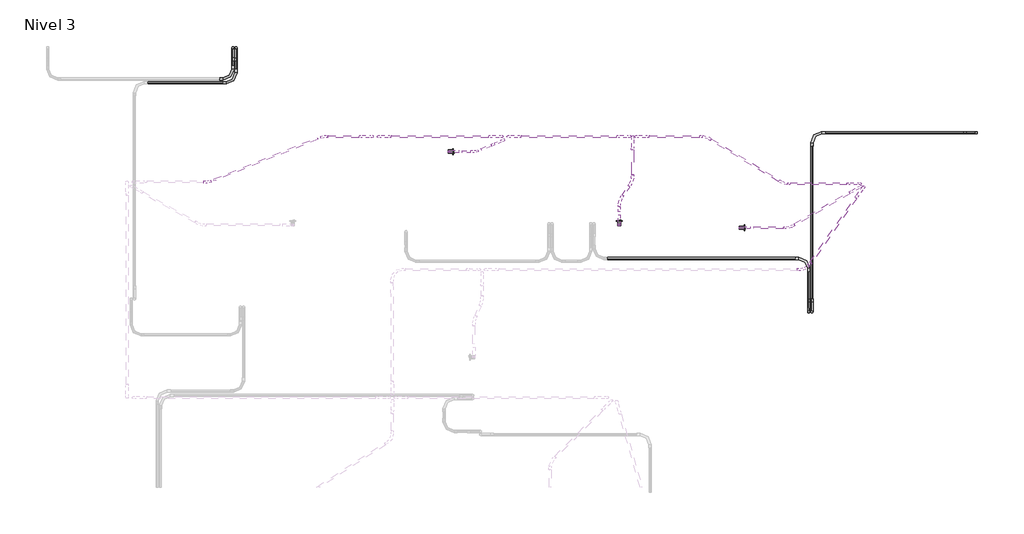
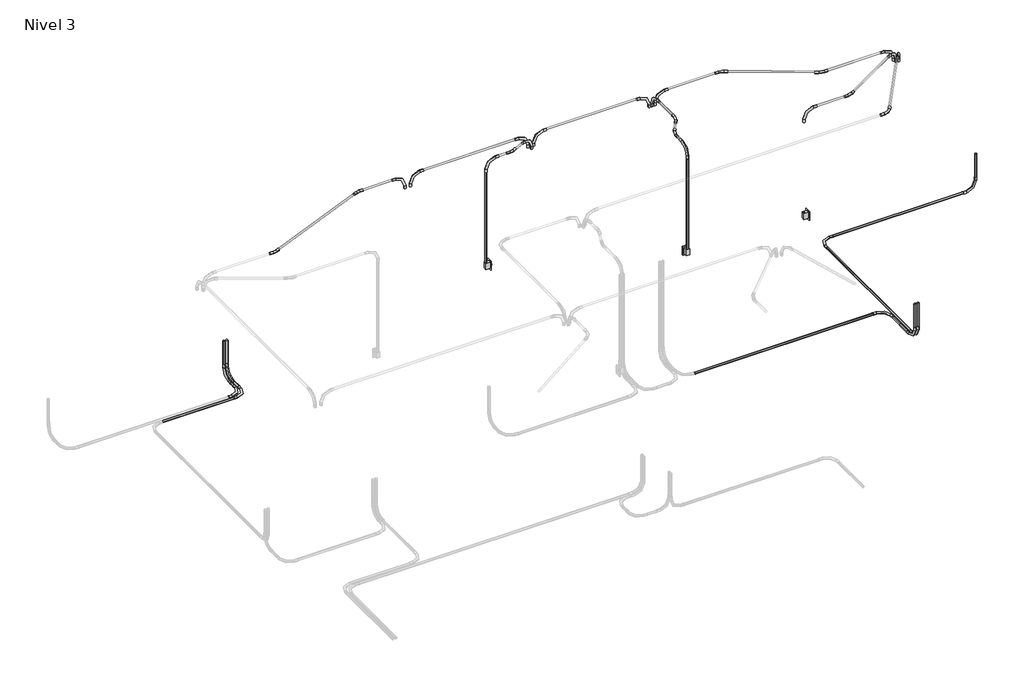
# One storey, part 9 of 9: 32 cable carrier fittings, 29 cable carrier segments, 3 switching devices.
"""IFC4 building model written with IfcOpenShell, lengths in millimetres."""

from ifc_helpers import new_model, si_unit, point, frame, frame_2d, origin, place, context, project, spatial, circle_curve, trimmed, segment, composite_curve, outline, extrude, transform, mapped, element, save
from components import m_codo_de_tubo_extremo_liso_pvc_9da73e12, m_codo_de_tubo_extremo_liso_pvc_102f0f41, m_codo_de_tubo_extremo_liso_pvc_83c0c0e9, m_codo_de_tubo_extremo_liso_pvc_1ce4db88, m_codo_de_tubo_extremo_liso_pvc_e924b1dc, m_codo_de_tubo_extremo_liso_pvc_b7793a26, m_codo_de_tubo_extremo_liso_pvc_59586aee, m_codo_de_tubo_extremo_liso_pvc_e6ab1ad8, switching_device_22fed34b

model = new_model("IFC4")

# Units and contexts
model_context = context("Model", 3, world=origin())
ifc_project = project(units=[si_unit("LENGTHUNIT", "METRE", prefix="MILLI")], contexts=[model_context])

# Site, building, storey
site = spatial("IfcSite", under=ifc_project)
building = spatial("IfcBuilding", under=site)
storey = spatial("IfcBuildingStorey", under=building, Name="Nivel 3", Elevation=5450.0)

# Cable carrier fittings
placement = place(None, origin())
m_codo_de_tubo_extremo_liso_pvc_shape = m_codo_de_tubo_extremo_liso_pvc_9da73e12(model_context)
element("IfcCableCarrierFitting", 1, ObjectType="M_Codo de tubo - Extremo liso - PVC : CODO POTENCIA", at=placement, inside=storey, context=model_context, shape_type="MappedRepresentation", body=[
    mapped(m_codo_de_tubo_extremo_liso_pvc_shape, transform((571.491666, 17544.6371118, 5380.0), x_axis=(0.0, 0.0, -1.0), y_axis=(0.0, -1.0, 0.0), z_axis=(-1.0, 0.0, 0.0))),
])
element("IfcCableCarrierFitting", 2, ObjectType="M_Codo de tubo - Extremo liso - PVC : CODO POTENCIA", at=placement, inside=storey, context=model_context, shape_type="MappedRepresentation", body=[
    mapped(m_codo_de_tubo_extremo_liso_pvc_shape, transform((607.5553057, 17544.6371118, 5380.0), x_axis=(0.0, 0.0, -1.0), y_axis=(0.0, -1.0, 0.0), z_axis=(-1.0, 0.0, 0.0))),
])
element("IfcCableCarrierFitting", 3, ObjectType="M_Codo de tubo - Extremo liso - PVC : CODO POTENCIA", at=placement, inside=storey, context=model_context, shape_type="MappedRepresentation", body=[
    mapped(m_codo_de_tubo_extremo_liso_pvc_shape, transform((9120.3628882, 16566.5645592, 5380.0), x_axis=(0.0, 0.0, -1.0), y_axis=(-1.0, 0.0, 0.0), z_axis=(0.0, 1.0, 0.0))),
])
element("IfcCableCarrierFitting", 4, ObjectType="M_Codo de tubo - Extremo liso - PVC : CODO POTENCIA", at=placement, inside=storey, context=model_context, shape_type="MappedRepresentation", body=[
    mapped(m_codo_de_tubo_extremo_liso_pvc_shape, transform((7193.2733803, 14505.3628882, 5380.0), x_axis=(0.0, 0.0, -1.0), y_axis=(0.0, 1.0, 0.0), z_axis=(1.0, 0.0, 0.0))),
])
element("IfcCableCarrierFitting", 5, ObjectType="M_Codo de tubo - Extremo liso - PVC : CODO POTENCIA", at=placement, inside=storey, context=model_context, shape_type="MappedRepresentation", body=[
    mapped(m_codo_de_tubo_extremo_liso_pvc_shape, transform((7229.33702, 16566.5645592, 5380.0), x_axis=(-1.0, 0.0, 0.0), y_axis=(0.0, -1.0, 0.0), z_axis=(0.0, 0.0, 1.0))),
])
element("IfcCableCarrierFitting", 6, ObjectType="M_Codo de tubo - Extremo liso - PVC : CODO POTENCIA", at=placement, inside=storey, context=model_context, shape_type="MappedRepresentation", body=[
    mapped(m_codo_de_tubo_extremo_liso_pvc_shape, transform((7229.33702, 14505.3628882, 5380.0), x_axis=(0.0, 0.0, -1.0), y_axis=(0.0, 1.0, 0.0), z_axis=(1.0, 0.0, 0.0))),
])
element("IfcCableCarrierFitting", 7, ObjectType="M_Codo de tubo - Extremo liso - PVC : CODO POTENCIA", at=placement, inside=storey, context=model_context, shape_type="MappedRepresentation", body=[
    mapped(m_codo_de_tubo_extremo_liso_pvc_shape, transform((7193.2733803, 15120.3628882, 5380.0), x_axis=(0.0, 1.0, 0.0), y_axis=(-1.0, 0.0, 0.0), z_axis=(0.0, 0.0, 1.0))),
])
element("IfcCableCarrierFitting", 8, ObjectType="M_Codo de tubo - Extremo liso - PVC : CODO POTENCIA", at=placement, inside=storey, context=model_context, shape_type="MappedRepresentation", body=[
    mapped(m_codo_de_tubo_extremo_liso_pvc_shape, transform((607.5553057, 17141.7513363, 5380.0), x_axis=(1.0, 0.0, 0.0), y_axis=(0.0, 1.0, 0.0), z_axis=(0.0, 0.0, 1.0))),
])
element("IfcCableCarrierFitting", 9, ObjectType="M_Codo de tubo - Extremo liso - PVC : CODO POTENCIA", at=placement, inside=storey, context=model_context, shape_type="MappedRepresentation", body=[
    mapped(m_codo_de_tubo_extremo_liso_pvc_shape, transform((571.491666, 17184.6371118, 5380.0), x_axis=(1.0, 0.0, 0.0), y_axis=(0.0, 1.0, 0.0), z_axis=(0.0, 0.0, 1.0))),
])
element("IfcCableCarrierFitting", 10, ObjectType="M_Codo de tubo - Extremo liso - PVC : CODO ILUMINACION", at=placement, inside=storey, context=model_context, shape_type="MappedRepresentation", body=[
    mapped(m_codo_de_tubo_extremo_liso_pvc_shape, transform((2241.7948591, 16522.4684793, 8000.0), x_axis=(-1.0, 0.0, 0.0), y_axis=(0.0, 0.0, -1.0), z_axis=(0.0, -1.0, 0.0))),
])
element("IfcCableCarrierFitting", 11, ObjectType="M_Codo de tubo - Extremo liso - PVC : CODO ILUMINACION", at=placement, inside=storey, context=model_context, shape_type="MappedRepresentation", body=[
    mapped(m_codo_de_tubo_extremo_liso_pvc_shape, transform((3734.0151305, 16522.4684793, 8000.0), x_axis=(-1.0, 0.0, 0.0), y_axis=(0.0, 0.0, -1.0), z_axis=(0.0, -1.0, 0.0))),
])
element("IfcCableCarrierFitting", 12, ObjectType="M_Codo de tubo - Extremo liso - PVC : CODO ILUMINACION", at=placement, inside=storey, context=model_context, shape_type="MappedRepresentation", body=[
    mapped(m_codo_de_tubo_extremo_liso_pvc_shape, transform((5204.7397254, 16522.4684793, 8000.0), x_axis=(-1.0, 0.0, 0.0), y_axis=(0.0, 0.0, -1.0), z_axis=(0.0, -1.0, 0.0))),
])
element("IfcCableCarrierFitting", 13, ObjectType="M_Codo de tubo - Extremo liso - PVC : CODO ILUMINACION", at=placement, inside=storey, context=model_context, shape_type="MappedRepresentation", body=[
    mapped(m_codo_de_tubo_extremo_liso_pvc_shape, transform((3056.7668084, 16349.9044993, 8000.0), x_axis=(0.0, 0.0, 1.0), y_axis=(1.0, 0.0, 0.0), z_axis=(0.0, 1.0, 0.0))),
])
element("IfcCableCarrierFitting", 14, ObjectType="M_Codo de tubo - Extremo liso - PVC : CODO ILUMINACION", at=placement, inside=storey, context=model_context, shape_type="MappedRepresentation", body=[
    mapped(m_codo_de_tubo_extremo_liso_pvc_shape, transform((5014.6923036, 15506.8611243, 8000.0), x_axis=(0.0, 0.0, 1.0), y_axis=(0.0, 1.0, 0.0), z_axis=(-1.0, 0.0, 0.0))),
])
element("IfcCableCarrierFitting", 15, ObjectType="M_Codo de tubo - Extremo liso - PVC : CODO ILUMINACION", at=placement, inside=storey, context=model_context, shape_type="MappedRepresentation", body=[
    mapped(m_codo_de_tubo_extremo_liso_pvc_shape, transform((6406.8611243, 15473.3236049, 8000.0), x_axis=(0.0, 0.0, 1.0), y_axis=(1.0, 0.0, 0.0), z_axis=(0.0, 1.0, 0.0))),
])
m_codo_de_tubo_extremo_liso_pvc_2_shape = m_codo_de_tubo_extremo_liso_pvc_102f0f41(model_context)
element("IfcCableCarrierFitting", 16, ObjectType="M_Codo de tubo - Extremo liso - PVC : CODO ILUMINACION", at=placement, inside=storey, context=model_context, shape_type="MappedRepresentation", body=[
    mapped(m_codo_de_tubo_extremo_liso_pvc_2_shape, transform((2173.7645981, 16522.4684793, 8000.0), x_axis=(1.0, 0.0, 0.0), y_axis=(0.0, 0.0, 1.0), z_axis=(0.0, -1.0, 0.0))),
])
element("IfcCableCarrierFitting", 17, ObjectType="M_Codo de tubo - Extremo liso - PVC : CODO ILUMINACION", at=placement, inside=storey, context=model_context, shape_type="MappedRepresentation", body=[
    mapped(m_codo_de_tubo_extremo_liso_pvc_2_shape, transform((3665.9848695, 16522.4684793, 8000.0), x_axis=(1.0, 0.0, 0.0), y_axis=(0.0, 0.0, 1.0), z_axis=(0.0, -1.0, 0.0))),
])
element("IfcCableCarrierFitting", 18, ObjectType="M_Codo de tubo - Extremo liso - PVC : CODO ILUMINACION", at=placement, inside=storey, context=model_context, shape_type="MappedRepresentation", body=[
    mapped(m_codo_de_tubo_extremo_liso_pvc_2_shape, transform((5136.7094645, 16522.4684793, 8000.0), x_axis=(1.0, 0.0, 0.0), y_axis=(0.0, 0.0, 1.0), z_axis=(0.0, -1.0, 0.0))),
])
element("IfcCableCarrierFitting", 19, ObjectType="M_Codo de tubo - Extremo liso - PVC : CODO ILUMINACION", at=placement, inside=storey, context=model_context, shape_type="MappedRepresentation", body=[
    mapped(m_codo_de_tubo_extremo_liso_pvc_2_shape, transform((7823.8636227, 15941.494093, 8000.0), x_axis=(0.5735764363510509, 0.8191520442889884, 0.0), y_axis=(0.0, 0.0, 1.0), z_axis=(0.8191520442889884, -0.5735764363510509, 0.0))),
])
element("IfcCableCarrierFitting", 20, ObjectType="M_Codo de tubo - Extremo liso - PVC : CODO ILUMINACION", at=placement, inside=storey, context=model_context, shape_type="MappedRepresentation", body=[
    mapped(m_codo_de_tubo_extremo_liso_pvc_2_shape, transform((7785.0139117, 15979.0288692, 8000.0), x_axis=(1.0, 0.0, 0.0), y_axis=(0.0, 0.0, 1.0), z_axis=(0.0, -1.0, 0.0))),
])
element("IfcCableCarrierFitting", 21, ObjectType="M_Codo de tubo - Extremo liso - PVC : CODO ILUMINACION", at=placement, inside=storey, context=model_context, shape_type="MappedRepresentation", body=[
    mapped(m_codo_de_tubo_extremo_liso_pvc_2_shape, transform((3684.8643971, 16483.326512, 8000.0), x_axis=(0.9205048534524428, 0.3907311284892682, 0.0), y_axis=(0.0, 0.0, 1.0000000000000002), z_axis=(0.3907311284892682, -0.9205048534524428, 0.0))),
])
element("IfcCableCarrierFitting", 22, ObjectType="M_Codo de tubo - Extremo liso - PVC : CODO ILUMINACION", at=placement, inside=storey, context=model_context, shape_type="MappedRepresentation", body=[
    mapped(m_codo_de_tubo_extremo_liso_pvc_2_shape, transform((5168.2792063, 16521.8599625, 8000.0), x_axis=(0.0, 1.0, 0.0), y_axis=(0.0, 0.0, 1.0), z_axis=(1.0, 0.0, 0.0))),
])
element("IfcCableCarrierFitting", 23, ObjectType="M_Codo de tubo - Extremo liso - PVC : CODO ILUMINACION", at=placement, inside=storey, context=model_context, shape_type="MappedRepresentation", body=[
    mapped(m_codo_de_tubo_extremo_liso_pvc_2_shape, transform((7797.1522648, 15952.0796933, 8000.0), x_axis=(0.8660254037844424, 0.4999999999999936, 0.0), y_axis=(0.0, 0.0, 1.0), z_axis=(0.4999999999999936, -0.8660254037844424, 0.0))),
])
m_codo_de_tubo_extremo_liso_pvc_3_shape = m_codo_de_tubo_extremo_liso_pvc_83c0c0e9(model_context)
element("IfcCableCarrierFitting", 24, ObjectType="M_Codo de tubo - Extremo liso - PVC : CODO ILUMINACION", at=placement, inside=storey, context=model_context, shape_type="MappedRepresentation", body=[
    mapped(m_codo_de_tubo_extremo_liso_pvc_3_shape, transform((297.9663114, 16001.2965089, 8000.0), x_axis=(1.0, 0.0, 0.0), y_axis=(0.0, 1.0, 0.0), z_axis=(0.0, 0.0, 1.0))),
])
element("IfcCableCarrierFitting", 25, ObjectType="M_Codo de tubo - Extremo liso - PVC : CODO ILUMINACION", at=placement, inside=storey, context=model_context, shape_type="MappedRepresentation", body=[
    mapped(m_codo_de_tubo_extremo_liso_pvc_3_shape, transform((1601.3645981, 16522.4684793, 8000.0), x_axis=(-1.0, 0.0, 0.0), y_axis=(0.0, -1.0, 0.0), z_axis=(0.0, 0.0, 1.0))),
])
m_codo_de_tubo_extremo_liso_pvc_4_shape = m_codo_de_tubo_extremo_liso_pvc_1ce4db88(model_context)
element("IfcCableCarrierFitting", 26, ObjectType="M_Codo de tubo - Extremo liso - PVC : CODO ILUMINACION", at=placement, inside=storey, context=model_context, shape_type="MappedRepresentation", body=[
    mapped(m_codo_de_tubo_extremo_liso_pvc_4_shape, transform((6008.1785187, 16522.4684793, 8000.0), x_axis=(-0.8571673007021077, 0.5150380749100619, 0.0), y_axis=(-0.5150380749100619, -0.8571673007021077, 0.0), z_axis=(0.0, 0.0, 1.0))),
])
element("IfcCableCarrierFitting", 27, ObjectType="M_Codo de tubo - Extremo liso - PVC : CODO ILUMINACION", at=placement, inside=storey, context=model_context, shape_type="MappedRepresentation", body=[
    mapped(m_codo_de_tubo_extremo_liso_pvc_4_shape, transform((6912.6139117, 15979.0288692, 8000.0), x_axis=(0.8571673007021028, -0.51503807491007, 0.0), y_axis=(0.51503807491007, 0.8571673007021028, 0.0), z_axis=(0.0, 0.0, 1.0))),
])
m_codo_de_tubo_extremo_liso_pvc_5_shape = m_codo_de_tubo_extremo_liso_pvc_e924b1dc(model_context)
element("IfcCableCarrierFitting", 28, ObjectType="M_Codo de tubo - Extremo liso - PVC : CODO ILUMINACION", at=placement, inside=storey, context=model_context, shape_type="MappedRepresentation", body=[
    mapped(m_codo_de_tubo_extremo_liso_pvc_5_shape, transform((7159.7702922, 14993.0705266, 8000.0), x_axis=(1.0, 0.0, 0.0), y_axis=(0.0, 1.0, 0.0), z_axis=(0.0, 0.0, 1.0))),
])
m_codo_de_tubo_extremo_liso_pvc_6_shape = m_codo_de_tubo_extremo_liso_pvc_b7793a26(model_context)
element("IfcCableCarrierFitting", 29, ObjectType="M_Codo de tubo - Extremo liso - PVC : CODO ILUMINACION", at=placement, inside=storey, context=model_context, shape_type="MappedRepresentation", body=[
    mapped(m_codo_de_tubo_extremo_liso_pvc_6_shape, transform((3370.5418327, 16349.9044993, 8000.0), x_axis=(1.0, 0.0, 0.0), y_axis=(0.0, 1.0, 0.0), z_axis=(0.0, 0.0, 1.0))),
])
m_codo_de_tubo_extremo_liso_pvc_7_shape = m_codo_de_tubo_extremo_liso_pvc_59586aee(model_context)
element("IfcCableCarrierFitting", 30, ObjectType="M_Codo de tubo - Extremo liso - PVC : CODO ILUMINACION", at=placement, inside=storey, context=model_context, shape_type="MappedRepresentation", body=[
    mapped(m_codo_de_tubo_extremo_liso_pvc_7_shape, transform((5168.2792063, 16009.4599625, 8000.0), x_axis=(0.5679095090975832, 0.823090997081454, 0.0), y_axis=(-0.823090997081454, 0.5679095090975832, 0.0), z_axis=(0.0, 0.0, 1.0))),
])
element("IfcCableCarrierFitting", 31, ObjectType="M_Codo de tubo - Extremo liso - PVC : CODO ILUMINACION", at=placement, inside=storey, context=model_context, shape_type="MappedRepresentation", body=[
    mapped(m_codo_de_tubo_extremo_liso_pvc_7_shape, transform((5014.6923036, 15786.8611243, 8000.0), x_axis=(-0.5679095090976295, -0.8230909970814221, 0.0), y_axis=(0.8230909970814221, -0.5679095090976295, 0.0), z_axis=(0.0, 0.0, 1.0))),
])
m_codo_de_tubo_extremo_liso_pvc_8_shape = m_codo_de_tubo_extremo_liso_pvc_e6ab1ad8(model_context)
element("IfcCableCarrierFitting", 32, ObjectType="M_Codo de tubo - Extremo liso - PVC : CODO ILUMINACION", at=placement, inside=storey, context=model_context, shape_type="MappedRepresentation", body=[
    mapped(m_codo_de_tubo_extremo_liso_pvc_8_shape, transform((6967.9223952, 15473.3236049, 8000.0), x_axis=(1.0, 0.0, 0.0), y_axis=(0.0, 1.0, 0.0), z_axis=(0.0, 0.0, 1.0))),
])

# Cable carrier segments
element("IfcCableCarrierSegment", 33, ObjectType="PVC-SEL, POTENCIA", at=placement, inside=storey, context=model_context, shape_type="SweptSolid", body=[
    extrude(outline(composite_curve([segment(trimmed(circle_curve(frame_2d((5380.0, 571.491666)), 11.71), [point((5380.0, 559.781666))], [point((5368.29, 571.491666))], False, "CARTESIAN"), True, "CONTINUOUS"), segment(trimmed(circle_curve(frame_2d((5380.0, 571.491666)), 11.71), [point((5368.29, 571.491666))], [point((5380.0, 583.201666))], False, "CARTESIAN"), True, "CONTINUOUS"), segment(trimmed(circle_curve(frame_2d((5380.0, 571.491666)), 11.71), [point((5380.0, 583.201666))], [point((5391.71, 571.491666))], False, "CARTESIAN"), True, "CONTINUOUS"), segment(trimmed(circle_curve(frame_2d((5380.0, 571.491666)), 11.71), [point((5391.71, 571.491666))], [point((5380.0, 559.781666))], False, "CARTESIAN"), True, "CONTINUOUS")], self_intersect=False)), frame((0.0, 17337.0371118, 0.0), z_axis=(0.0, 1.0, 0.0), x_axis=(0.0, 0.0, 1.0)), (0.0, 0.0, 1.0), 55.2),
])
element("IfcCableCarrierSegment", 34, ObjectType="PVC-SEL, POTENCIA", at=placement, inside=storey, context=model_context, shape_type="SweptSolid", body=[
    extrude(outline(composite_curve([segment(trimmed(circle_curve(frame_2d((571.491666, 17544.6371118)), 11.71), [point((583.201666, 17544.6371118))], [point((571.491666, 17532.9271118))], False, "CARTESIAN"), True, "CONTINUOUS"), segment(trimmed(circle_curve(frame_2d((571.491666, 17544.6371118)), 11.71), [point((571.491666, 17532.9271118))], [point((559.781666, 17544.6371118))], False, "CARTESIAN"), True, "CONTINUOUS"), segment(trimmed(circle_curve(frame_2d((571.491666, 17544.6371118)), 11.71), [point((559.781666, 17544.6371118))], [point((571.491666, 17556.3471118))], False, "CARTESIAN"), True, "CONTINUOUS"), segment(trimmed(circle_curve(frame_2d((571.491666, 17544.6371118)), 11.71), [point((571.491666, 17556.3471118))], [point((583.201666, 17544.6371118))], False, "CARTESIAN"), True, "CONTINUOUS")], self_intersect=False)), frame((0.0, 0.0, 5532.4), z_axis=(0.0, 0.0, 1.0), x_axis=(1.0, 0.0, 0.0)), (0.0, 0.0, 1.0), 297.3020537),
])
element("IfcCableCarrierSegment", 35, ObjectType="PVC-SEL, POTENCIA", at=placement, inside=storey, context=model_context, shape_type="SweptSolid", body=[
    extrude(outline(composite_curve([segment(trimmed(circle_curve(frame_2d((5380.0, 607.5553057)), 11.71), [point((5380.0, 595.8453057))], [point((5368.29, 607.5553057))], False, "CARTESIAN"), True, "CONTINUOUS"), segment(trimmed(circle_curve(frame_2d((5380.0, 607.5553057)), 11.71), [point((5368.29, 607.5553057))], [point((5380.0, 619.2653057))], False, "CARTESIAN"), True, "CONTINUOUS"), segment(trimmed(circle_curve(frame_2d((5380.0, 607.5553057)), 11.71), [point((5380.0, 619.2653057))], [point((5391.71, 607.5553057))], False, "CARTESIAN"), True, "CONTINUOUS"), segment(trimmed(circle_curve(frame_2d((5380.0, 607.5553057)), 11.71), [point((5391.71, 607.5553057))], [point((5380.0, 595.8453057))], False, "CARTESIAN"), True, "CONTINUOUS")], self_intersect=False)), frame((0.0, 17294.1513363, 0.0), z_axis=(0.0, 1.0, 0.0), x_axis=(0.0, 0.0, 1.0)), (0.0, 0.0, 1.0), 98.0857755),
])
element("IfcCableCarrierSegment", 36, ObjectType="PVC-SEL, POTENCIA", at=placement, inside=storey, context=model_context, shape_type="SweptSolid", body=[
    extrude(outline(composite_curve([segment(trimmed(circle_curve(frame_2d((607.5553057, 17544.6371118)), 11.71), [point((619.2653057, 17544.6371118))], [point((607.5553057, 17532.9271118))], False, "CARTESIAN"), True, "CONTINUOUS"), segment(trimmed(circle_curve(frame_2d((607.5553057, 17544.6371118)), 11.71), [point((607.5553057, 17532.9271118))], [point((595.8453057, 17544.6371118))], False, "CARTESIAN"), True, "CONTINUOUS"), segment(trimmed(circle_curve(frame_2d((607.5553057, 17544.6371118)), 11.71), [point((595.8453057, 17544.6371118))], [point((607.5553057, 17556.3471118))], False, "CARTESIAN"), True, "CONTINUOUS"), segment(trimmed(circle_curve(frame_2d((607.5553057, 17544.6371118)), 11.71), [point((607.5553057, 17556.3471118))], [point((619.2653057, 17544.6371118))], False, "CARTESIAN"), True, "CONTINUOUS")], self_intersect=False)), frame((0.0, 0.0, 5532.4), z_axis=(0.0, 0.0, 1.0), x_axis=(1.0, 0.0, 0.0)), (0.0, 0.0, 1.0), 297.3020537),
])
element("IfcCableCarrierSegment", 37, ObjectType="PVC-SEL, POTENCIA", at=placement, inside=storey, context=model_context, shape_type="SweptSolid", body=[
    extrude(outline(composite_curve([segment(trimmed(circle_curve(frame_2d((16566.5645592, 5380.0)), 11.71), [point((16578.2745592, 5380.0))], [point((16566.5645592, 5368.29))], False, "CARTESIAN"), True, "CONTINUOUS"), segment(trimmed(circle_curve(frame_2d((16566.5645592, 5380.0)), 11.71), [point((16566.5645592, 5368.29))], [point((16554.8545592, 5380.0))], False, "CARTESIAN"), True, "CONTINUOUS"), segment(trimmed(circle_curve(frame_2d((16566.5645592, 5380.0)), 11.71), [point((16554.8545592, 5380.0))], [point((16566.5645592, 5391.71))], False, "CARTESIAN"), True, "CONTINUOUS"), segment(trimmed(circle_curve(frame_2d((16566.5645592, 5380.0)), 11.71), [point((16566.5645592, 5391.71))], [point((16578.2745592, 5380.0))], False, "CARTESIAN"), True, "CONTINUOUS")], self_intersect=False)), frame((7381.73702, 0.0, 0.0), z_axis=(1.0, 0.0, 0.0), x_axis=(0.0, 1.0, 0.0)), (0.0, 0.0, 1.0), 1586.2258683),
])
element("IfcCableCarrierSegment", 38, ObjectType="PVC-SEL, POTENCIA", at=placement, inside=storey, context=model_context, shape_type="SweptSolid", body=[
    extrude(outline(composite_curve([segment(trimmed(circle_curve(frame_2d((9120.3628882, 16566.5645592)), 11.71), [point((9132.0728882, 16566.5645592))], [point((9120.3628882, 16554.8545592))], False, "CARTESIAN"), True, "CONTINUOUS"), segment(trimmed(circle_curve(frame_2d((9120.3628882, 16566.5645592)), 11.71), [point((9120.3628882, 16554.8545592))], [point((9108.6528882, 16566.5645592))], False, "CARTESIAN"), True, "CONTINUOUS"), segment(trimmed(circle_curve(frame_2d((9120.3628882, 16566.5645592)), 11.71), [point((9108.6528882, 16566.5645592))], [point((9120.3628882, 16578.2745592))], False, "CARTESIAN"), True, "CONTINUOUS"), segment(trimmed(circle_curve(frame_2d((9120.3628882, 16566.5645592)), 11.71), [point((9120.3628882, 16578.2745592))], [point((9132.0728882, 16566.5645592))], False, "CARTESIAN"), True, "CONTINUOUS")], self_intersect=False)), frame((0.0, 0.0, 5532.4), z_axis=(0.0, 0.0, 1.0), x_axis=(1.0, 0.0, 0.0)), (0.0, 0.0, 1.0), 297.3020537),
])
element("IfcCableCarrierSegment", 39, ObjectType="PVC-SEL, POTENCIA", at=placement, inside=storey, context=model_context, shape_type="SweptSolid", body=[
    extrude(outline(composite_curve([segment(trimmed(circle_curve(frame_2d((5380.0, 7193.2733803)), 11.71), [point((5380.0, 7204.9833803))], [point((5391.71, 7193.2733803))], False, "CARTESIAN"), True, "CONTINUOUS"), segment(trimmed(circle_curve(frame_2d((5380.0, 7193.2733803)), 11.71), [point((5391.71, 7193.2733803))], [point((5380.0, 7181.5633803))], False, "CARTESIAN"), True, "CONTINUOUS"), segment(trimmed(circle_curve(frame_2d((5380.0, 7193.2733803)), 11.71), [point((5380.0, 7181.5633803))], [point((5368.29, 7193.2733803))], False, "CARTESIAN"), True, "CONTINUOUS"), segment(trimmed(circle_curve(frame_2d((5380.0, 7193.2733803)), 11.71), [point((5368.29, 7193.2733803))], [point((5380.0, 7204.9833803))], False, "CARTESIAN"), True, "CONTINUOUS")], self_intersect=False)), frame((0.0, 14657.7628882, 0.0), z_axis=(0.0, 1.0, 0.0), x_axis=(0.0, 0.0, 1.0)), (0.0, 0.0, 1.0), 310.2),
])
element("IfcCableCarrierSegment", 40, ObjectType="PVC-SEL, POTENCIA", at=placement, inside=storey, context=model_context, shape_type="SweptSolid", body=[
    extrude(outline(composite_curve([segment(trimmed(circle_curve(frame_2d((7193.2733803, 14505.3628882)), 11.71), [point((7204.9833803, 14505.3628882))], [point((7193.2733803, 14493.6528882))], False, "CARTESIAN"), True, "CONTINUOUS"), segment(trimmed(circle_curve(frame_2d((7193.2733803, 14505.3628882)), 11.71), [point((7193.2733803, 14493.6528882))], [point((7181.5633803, 14505.3628882))], False, "CARTESIAN"), True, "CONTINUOUS"), segment(trimmed(circle_curve(frame_2d((7193.2733803, 14505.3628882)), 11.71), [point((7181.5633803, 14505.3628882))], [point((7193.2733803, 14517.0728882))], False, "CARTESIAN"), True, "CONTINUOUS"), segment(trimmed(circle_curve(frame_2d((7193.2733803, 14505.3628882)), 11.71), [point((7193.2733803, 14517.0728882))], [point((7204.9833803, 14505.3628882))], False, "CARTESIAN"), True, "CONTINUOUS")], self_intersect=False)), frame((0.0, 0.0, 5532.4), z_axis=(0.0, 0.0, 1.0), x_axis=(1.0, 0.0, 0.0)), (0.0, 0.0, 1.0), 297.3020537),
])
element("IfcCableCarrierSegment", 41, ObjectType="PVC-SEL, POTENCIA", at=placement, inside=storey, context=model_context, shape_type="SweptSolid", body=[
    extrude(outline(composite_curve([segment(trimmed(circle_curve(frame_2d((5380.0, 7229.33702)), 11.71), [point((5380.0, 7217.62702))], [point((5368.29, 7229.33702))], False, "CARTESIAN"), True, "CONTINUOUS"), segment(trimmed(circle_curve(frame_2d((5380.0, 7229.33702)), 11.71), [point((5368.29, 7229.33702))], [point((5380.0, 7241.04702))], False, "CARTESIAN"), True, "CONTINUOUS"), segment(trimmed(circle_curve(frame_2d((5380.0, 7229.33702)), 11.71), [point((5380.0, 7241.04702))], [point((5391.71, 7229.33702))], False, "CARTESIAN"), True, "CONTINUOUS"), segment(trimmed(circle_curve(frame_2d((5380.0, 7229.33702)), 11.71), [point((5391.71, 7229.33702))], [point((5380.0, 7217.62702))], False, "CARTESIAN"), True, "CONTINUOUS")], self_intersect=False)), frame((0.0, 14657.7628882, 0.0), z_axis=(0.0, 1.0, 0.0), x_axis=(0.0, 0.0, 1.0)), (0.0, 0.0, 1.0), 1756.401671),
])
element("IfcCableCarrierSegment", 42, ObjectType="PVC-SEL, POTENCIA", at=placement, inside=storey, context=model_context, shape_type="SweptSolid", body=[
    extrude(outline(composite_curve([segment(trimmed(circle_curve(frame_2d((7229.33702, 14505.3628882)), 11.71), [point((7241.04702, 14505.3628882))], [point((7229.33702, 14493.6528882))], False, "CARTESIAN"), True, "CONTINUOUS"), segment(trimmed(circle_curve(frame_2d((7229.33702, 14505.3628882)), 11.71), [point((7229.33702, 14493.6528882))], [point((7217.62702, 14505.3628882))], False, "CARTESIAN"), True, "CONTINUOUS"), segment(trimmed(circle_curve(frame_2d((7229.33702, 14505.3628882)), 11.71), [point((7217.62702, 14505.3628882))], [point((7229.33702, 14517.0728882))], False, "CARTESIAN"), True, "CONTINUOUS"), segment(trimmed(circle_curve(frame_2d((7229.33702, 14505.3628882)), 11.71), [point((7229.33702, 14517.0728882))], [point((7241.04702, 14505.3628882))], False, "CARTESIAN"), True, "CONTINUOUS")], self_intersect=False)), frame((0.0, 0.0, 5532.4), z_axis=(0.0, 0.0, 1.0), x_axis=(1.0, 0.0, 0.0)), (0.0, 0.0, 1.0), 297.3020537),
])
element("IfcCableCarrierSegment", 43, ObjectType="PVC-SEL, POTENCIA", at=placement, inside=storey, context=model_context, shape_type="SweptSolid", body=[
    extrude(outline(composite_curve([segment(trimmed(circle_curve(frame_2d((15120.3628882, 5380.0)), 11.71), [point((15132.0728882, 5380.0))], [point((15120.3628882, 5368.29))], False, "CARTESIAN"), True, "CONTINUOUS"), segment(trimmed(circle_curve(frame_2d((15120.3628882, 5380.0)), 11.71), [point((15120.3628882, 5368.29))], [point((15108.6528882, 5380.0))], False, "CARTESIAN"), True, "CONTINUOUS"), segment(trimmed(circle_curve(frame_2d((15120.3628882, 5380.0)), 11.71), [point((15108.6528882, 5380.0))], [point((15120.3628882, 5391.71))], False, "CARTESIAN"), True, "CONTINUOUS"), segment(trimmed(circle_curve(frame_2d((15120.3628882, 5380.0)), 11.71), [point((15120.3628882, 5391.71))], [point((15132.0728882, 5380.0))], False, "CARTESIAN"), True, "CONTINUOUS")], self_intersect=False)), frame((4875.3493809, 0.0, 0.0), z_axis=(1.0, 0.0, 0.0), x_axis=(0.0, 1.0, 0.0)), (0.0, 0.0, 1.0), 2165.5239995),
])
element("IfcCableCarrierSegment", 44, ObjectType="PVC-SEL, POTENCIA", at=placement, inside=storey, context=model_context, shape_type="SweptSolid", body=[
    extrude(outline(composite_curve([segment(trimmed(circle_curve(frame_2d((17141.7513363, 5380.0)), 11.71), [point((17153.4613363, 5380.0))], [point((17141.7513363, 5368.29))], False, "CARTESIAN"), True, "CONTINUOUS"), segment(trimmed(circle_curve(frame_2d((17141.7513363, 5380.0)), 11.71), [point((17141.7513363, 5368.29))], [point((17130.0413363, 5380.0))], False, "CARTESIAN"), True, "CONTINUOUS"), segment(trimmed(circle_curve(frame_2d((17141.7513363, 5380.0)), 11.71), [point((17130.0413363, 5380.0))], [point((17141.7513363, 5391.71))], False, "CARTESIAN"), True, "CONTINUOUS"), segment(trimmed(circle_curve(frame_2d((17141.7513363, 5380.0)), 11.71), [point((17141.7513363, 5391.71))], [point((17153.4613363, 5380.0))], False, "CARTESIAN"), True, "CONTINUOUS")], self_intersect=False)), frame((-409.6660348, 0.0, 0.0), z_axis=(1.0, 0.0, 0.0), x_axis=(0.0, 1.0, 0.0)), (0.0, 0.0, 1.0), 864.8213404),
])
element("IfcCableCarrierSegment", 45, ObjectType="PVC-SEL ILUMINACION", at=placement, inside=storey, context=model_context, shape_type="SweptSolid", body=[
    extrude(outline(composite_curve([segment(trimmed(circle_curve(frame_2d((16522.4684793, 8000.0)), 11.71), [point((16534.1784793, 8000.0))], [point((16522.4684793, 7988.29))], False, "CARTESIAN"), True, "CONTINUOUS"), segment(trimmed(circle_curve(frame_2d((16522.4684793, 8000.0)), 11.71), [point((16522.4684793, 7988.29))], [point((16510.7584793, 8000.0))], False, "CARTESIAN"), True, "CONTINUOUS"), segment(trimmed(circle_curve(frame_2d((16522.4684793, 8000.0)), 11.71), [point((16510.7584793, 8000.0))], [point((16522.4684793, 8011.71))], False, "CARTESIAN"), True, "CONTINUOUS"), segment(trimmed(circle_curve(frame_2d((16522.4684793, 8000.0)), 11.71), [point((16522.4684793, 8011.71))], [point((16534.1784793, 8000.0))], False, "CARTESIAN"), True, "CONTINUOUS")], self_intersect=False)), frame((1661.4694225, 0.0, 0.0), z_axis=(1.0, 0.0, 0.0), x_axis=(0.0, 1.0, 0.0)), (0.0, 0.0, 1.0), 359.8951756),
])
element("IfcCableCarrierSegment", 46, ObjectType="PVC-SEL ILUMINACION", at=placement, inside=storey, context=model_context, shape_type="SweptSolid", body=[
    extrude(outline(composite_curve([segment(trimmed(circle_curve(frame_2d((0.0, 11.71)), 11.71), [point((11.71, 11.71))], [point((0.0, 0.0))], False, "CARTESIAN"), True, "CONTINUOUS"), segment(trimmed(circle_curve(frame_2d((0.0, 11.71)), 11.71), [point((0.0, 0.0))], [point((-11.71, 11.71))], False, "CARTESIAN"), True, "CONTINUOUS"), segment(trimmed(circle_curve(frame_2d((0.0, 11.71)), 11.71), [point((-11.71, 11.71))], [point((0.0, 23.42))], False, "CARTESIAN"), True, "CONTINUOUS"), segment(trimmed(circle_curve(frame_2d((0.0, 11.71)), 11.71), [point((0.0, 23.42))], [point((11.71, 11.71))], False, "CARTESIAN"), True, "CONTINUOUS")], self_intersect=False)), frame((353.7750055, 16023.6119649, 8011.71), z_axis=(0.9285227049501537, 0.37127562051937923, 0.0), x_axis=(0.37127562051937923, -0.9285227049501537, 0.0)), (0.0, 0.0, 1.0), 1283.5237008),
])
element("IfcCableCarrierSegment", 47, ObjectType="PVC-SEL ILUMINACION", at=placement, inside=storey, context=model_context, shape_type="SweptSolid", body=[
    extrude(outline(composite_curve([segment(trimmed(circle_curve(frame_2d((0.0, 11.71)), 11.71), [point((11.7099999, 11.71))], [point((0.0, 0.0))], False, "CARTESIAN"), True, "CONTINUOUS"), segment(trimmed(circle_curve(frame_2d((0.0, 11.71)), 11.71), [point((0.0, 0.0))], [point((-11.7100001, 11.71))], False, "CARTESIAN"), True, "CONTINUOUS"), segment(trimmed(circle_curve(frame_2d((0.0, 11.71)), 11.71), [point((-11.7100001, 11.71))], [point((0.0, 23.42))], False, "CARTESIAN"), True, "CONTINUOUS"), segment(trimmed(circle_curve(frame_2d((0.0, 11.71)), 11.71), [point((0.0, 23.42))], [point((11.7099999, 11.71))], False, "CARTESIAN"), True, "CONTINUOUS")], self_intersect=False)), frame((7215.7518192, 15073.0204328, 8011.71), z_axis=(0.5735764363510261, 0.8191520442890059, 0.0), x_axis=(0.8191520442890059, -0.5735764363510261, 0.0)), (0.0, 0.0, 1.0), 907.8105753),
])
element("IfcCableCarrierSegment", 48, ObjectType="PVC-SEL ILUMINACION", at=placement, inside=storey, context=model_context, shape_type="SweptSolid", body=[
    extrude(outline(composite_curve([segment(trimmed(circle_curve(frame_2d((15979.0288692, 8000.0)), 11.71), [point((15990.7388692, 8000.0))], [point((15979.0288692, 7988.29))], False, "CARTESIAN"), True, "CONTINUOUS"), segment(trimmed(circle_curve(frame_2d((15979.0288692, 8000.0)), 11.71), [point((15979.0288692, 7988.29))], [point((15967.3188692, 8000.0))], False, "CARTESIAN"), True, "CONTINUOUS"), segment(trimmed(circle_curve(frame_2d((15979.0288692, 8000.0)), 11.71), [point((15967.3188692, 8000.0))], [point((15979.0288692, 8011.71))], False, "CARTESIAN"), True, "CONTINUOUS"), segment(trimmed(circle_curve(frame_2d((15979.0288692, 8000.0)), 11.71), [point((15979.0288692, 8011.71))], [point((15990.7388692, 8000.0))], False, "CARTESIAN"), True, "CONTINUOUS")], self_intersect=False)), frame((6982.4121071, 0.0, 0.0), z_axis=(1.0, 0.0, 0.0), x_axis=(0.0, 1.0, 0.0)), (0.0, 0.0, 1.0), 650.2018046),
])
element("IfcCableCarrierSegment", 49, ObjectType="PVC-SEL ILUMINACION", at=placement, inside=storey, context=model_context, shape_type="SweptSolid", body=[
    extrude(outline(composite_curve([segment(trimmed(circle_curve(frame_2d((0.0, -11.71)), 11.71), [point((-11.71, -11.71))], [point((0.0, 0.0))], False, "CARTESIAN"), True, "CONTINUOUS"), segment(trimmed(circle_curve(frame_2d((0.0, -11.71)), 11.71), [point((0.0, 0.0))], [point((11.71, -11.71))], False, "CARTESIAN"), True, "CONTINUOUS"), segment(trimmed(circle_curve(frame_2d((0.0, -11.71)), 11.71), [point((11.71, -11.71))], [point((0.0, -23.42))], False, "CARTESIAN"), True, "CONTINUOUS"), segment(trimmed(circle_curve(frame_2d((0.0, -11.71)), 11.71), [point((0.0, -23.42))], [point((-11.71, -11.71))], False, "CARTESIAN"), True, "CONTINUOUS")], self_intersect=False)), frame((6852.7851809, 16014.9775974, 7988.29), z_axis=(-0.8571673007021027, 0.5150380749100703, 0.0), x_axis=(0.5150380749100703, 0.8571673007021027, 0.0)), (0.0, 0.0, 1.0), 915.5481443),
])
element("IfcCableCarrierSegment", 50, ObjectType="PVC-SEL ILUMINACION", at=placement, inside=storey, context=model_context, shape_type="SweptSolid", body=[
    extrude(outline(composite_curve([segment(trimmed(circle_curve(frame_2d((16522.4684793, 8000.0)), 11.71), [point((16510.7584793, 8000.0))], [point((16522.4684793, 8011.71))], False, "CARTESIAN"), True, "CONTINUOUS"), segment(trimmed(circle_curve(frame_2d((16522.4684793, 8000.0)), 11.71), [point((16522.4684793, 8011.71))], [point((16534.1784793, 8000.0))], False, "CARTESIAN"), True, "CONTINUOUS"), segment(trimmed(circle_curve(frame_2d((16522.4684793, 8000.0)), 11.71), [point((16534.1784793, 8000.0))], [point((16522.4684793, 7988.29))], False, "CARTESIAN"), True, "CONTINUOUS"), segment(trimmed(circle_curve(frame_2d((16522.4684793, 8000.0)), 11.71), [point((16522.4684793, 7988.29))], [point((16510.7584793, 8000.0))], False, "CARTESIAN"), True, "CONTINUOUS")], self_intersect=False)), frame((5357.1397254, 0.0, 0.0), z_axis=(1.0, 0.0, 0.0), x_axis=(0.0, 1.0, 0.0)), (0.0, 0.0, 1.0), 581.2405979),
])
element("IfcCableCarrierSegment", 51, ObjectType="PVC-SEL ILUMINACION", at=placement, inside=storey, context=model_context, shape_type="SweptSolid", body=[
    extrude(outline(composite_curve([segment(trimmed(circle_curve(frame_2d((16522.4684793, 8000.0)), 11.71), [point((16534.1784793, 8000.0))], [point((16522.4684793, 7988.29))], False, "CARTESIAN"), True, "CONTINUOUS"), segment(trimmed(circle_curve(frame_2d((16522.4684793, 8000.0)), 11.71), [point((16522.4684793, 7988.29))], [point((16510.7584793, 8000.0))], False, "CARTESIAN"), True, "CONTINUOUS"), segment(trimmed(circle_curve(frame_2d((16522.4684793, 8000.0)), 11.71), [point((16510.7584793, 8000.0))], [point((16522.4684793, 8011.71))], False, "CARTESIAN"), True, "CONTINUOUS"), segment(trimmed(circle_curve(frame_2d((16522.4684793, 8000.0)), 11.71), [point((16522.4684793, 8011.71))], [point((16534.1784793, 8000.0))], False, "CARTESIAN"), True, "CONTINUOUS")], self_intersect=False)), frame((3886.4151305, 0.0, 0.0), z_axis=(1.0, 0.0, 0.0), x_axis=(0.0, 1.0, 0.0)), (0.0, 0.0, 1.0), 1097.894334),
])
element("IfcCableCarrierSegment", 52, ObjectType="PVC-SEL ILUMINACION", at=placement, inside=storey, context=model_context, shape_type="SweptSolid", body=[
    extrude(outline(composite_curve([segment(trimmed(circle_curve(frame_2d((16522.4684793, 8000.0)), 11.71), [point((16510.7584793, 8000.0))], [point((16522.4684793, 8011.71))], False, "CARTESIAN"), True, "CONTINUOUS"), segment(trimmed(circle_curve(frame_2d((16522.4684793, 8000.0)), 11.71), [point((16522.4684793, 8011.71))], [point((16534.1784793, 8000.0))], False, "CARTESIAN"), True, "CONTINUOUS"), segment(trimmed(circle_curve(frame_2d((16522.4684793, 8000.0)), 11.71), [point((16534.1784793, 8000.0))], [point((16522.4684793, 7988.29))], False, "CARTESIAN"), True, "CONTINUOUS"), segment(trimmed(circle_curve(frame_2d((16522.4684793, 8000.0)), 11.71), [point((16522.4684793, 7988.29))], [point((16510.7584793, 8000.0))], False, "CARTESIAN"), True, "CONTINUOUS")], self_intersect=False)), frame((2394.1948591, 0.0, 0.0), z_axis=(1.0, 0.0, 0.0), x_axis=(0.0, 1.0, 0.0)), (0.0, 0.0, 1.0), 1119.3900104),
])
element("IfcCableCarrierSegment", 53, ObjectType="PVC-SEL ILUMINACION", at=placement, inside=storey, context=model_context, shape_type="SweptSolid", body=[
    extrude(outline(composite_curve([segment(trimmed(circle_curve(frame_2d((0.0, -11.71)), 11.71), [point((-11.7100001, -11.71))], [point((0.0, 0.0))], False, "CARTESIAN"), True, "CONTINUOUS"), segment(trimmed(circle_curve(frame_2d((0.0, -11.71)), 11.71), [point((0.0, 0.0))], [point((11.71, -11.71))], False, "CARTESIAN"), True, "CONTINUOUS"), segment(trimmed(circle_curve(frame_2d((0.0, -11.71)), 11.71), [point((11.71, -11.71))], [point((0.0, -23.42))], False, "CARTESIAN"), True, "CONTINUOUS"), segment(trimmed(circle_curve(frame_2d((0.0, -11.71)), 11.71), [point((0.0, -23.42))], [point((-11.7100001, -11.71))], False, "CARTESIAN"), True, "CONTINUOUS")], self_intersect=False)), frame((3427.0190377, 16373.8776505, 7988.29), z_axis=(0.920504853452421, 0.39073112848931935, 0.0), x_axis=(0.39073112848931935, -0.920504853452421, 0.0)), (0.0, 0.0, 1.0), 127.7129819),
])
element("IfcCableCarrierSegment", 54, ObjectType="PVC-SEL ILUMINACION", at=placement, inside=storey, context=model_context, shape_type="SweptSolid", body=[
    extrude(outline(composite_curve([segment(trimmed(circle_curve(frame_2d((16349.9044993, 8000.0)), 11.71), [point((16361.6144993, 8000.0))], [point((16349.9044993, 7988.29))], False, "CARTESIAN"), True, "CONTINUOUS"), segment(trimmed(circle_curve(frame_2d((16349.9044993, 8000.0)), 11.71), [point((16349.9044993, 7988.29))], [point((16338.1944993, 8000.0))], False, "CARTESIAN"), True, "CONTINUOUS"), segment(trimmed(circle_curve(frame_2d((16349.9044993, 8000.0)), 11.71), [point((16338.1944993, 8000.0))], [point((16349.9044993, 8011.71))], False, "CARTESIAN"), True, "CONTINUOUS"), segment(trimmed(circle_curve(frame_2d((16349.9044993, 8000.0)), 11.71), [point((16349.9044993, 8011.71))], [point((16361.6144993, 8000.0))], False, "CARTESIAN"), True, "CONTINUOUS")], self_intersect=False)), frame((3209.1668084, 0.0, 0.0), z_axis=(1.0, 0.0, 0.0), x_axis=(0.0, 1.0, 0.0)), (0.0, 0.0, 1.0), 100.0204265),
])
element("IfcCableCarrierSegment", 55, ObjectType="PVC-SEL ILUMINACION", at=placement, inside=storey, context=model_context, shape_type="SweptSolid", body=[
    extrude(outline(composite_curve([segment(trimmed(circle_curve(frame_2d((3056.7668084, 16349.9044993)), 11.71), [point((3045.0568084, 16349.9044993))], [point((3056.7668084, 16361.6144993))], False, "CARTESIAN"), True, "CONTINUOUS"), segment(trimmed(circle_curve(frame_2d((3056.7668084, 16349.9044993)), 11.71), [point((3056.7668084, 16361.6144993))], [point((3068.4768084, 16349.9044993))], False, "CARTESIAN"), True, "CONTINUOUS"), segment(trimmed(circle_curve(frame_2d((3056.7668084, 16349.9044993)), 11.71), [point((3068.4768084, 16349.9044993))], [point((3056.7668084, 16338.1944993))], False, "CARTESIAN"), True, "CONTINUOUS"), segment(trimmed(circle_curve(frame_2d((3056.7668084, 16349.9044993)), 11.71), [point((3056.7668084, 16338.1944993))], [point((3045.0568084, 16349.9044993))], False, "CARTESIAN"), True, "CONTINUOUS")], self_intersect=False)), frame((0.0, 0.0, 6690.2227463), z_axis=(0.0, 0.0, 1.0), x_axis=(1.0, 0.0, 0.0)), (0.0, 0.0, 1.0), 1157.3772537),
])
element("IfcCableCarrierSegment", 56, ObjectType="PVC-SEL ILUMINACION", at=placement, inside=storey, context=model_context, shape_type="SweptSolid", body=[
    extrude(outline(composite_curve([segment(trimmed(circle_curve(frame_2d((8000.0, 5168.2792063)), 11.71), [point((8000.0, 5156.5692063))], [point((7988.29, 5168.2792063))], False, "CARTESIAN"), True, "CONTINUOUS"), segment(trimmed(circle_curve(frame_2d((8000.0, 5168.2792063)), 11.71), [point((7988.29, 5168.2792063))], [point((8000.0, 5179.9892063))], False, "CARTESIAN"), True, "CONTINUOUS"), segment(trimmed(circle_curve(frame_2d((8000.0, 5168.2792063)), 11.71), [point((8000.0, 5179.9892063))], [point((8011.71, 5168.2792063))], False, "CARTESIAN"), True, "CONTINUOUS"), segment(trimmed(circle_curve(frame_2d((8000.0, 5168.2792063)), 11.71), [point((8011.71, 5168.2792063))], [point((8000.0, 5156.5692063))], False, "CARTESIAN"), True, "CONTINUOUS")], self_intersect=False)), frame((0.0, 16083.1654572, 0.0), z_axis=(0.0, 1.0, 0.0), x_axis=(0.0, 0.0, 1.0)), (0.0, 0.0, 1.0), 286.2945053),
])
element("IfcCableCarrierSegment", 57, ObjectType="PVC-SEL ILUMINACION", at=placement, inside=storey, context=model_context, shape_type="SweptSolid", body=[
    extrude(outline(composite_curve([segment(trimmed(circle_curve(frame_2d((8000.0, 5014.6923036)), 11.71), [point((8000.0, 5026.4023036))], [point((8011.71, 5014.6923036))], False, "CARTESIAN"), True, "CONTINUOUS"), segment(trimmed(circle_curve(frame_2d((8000.0, 5014.6923036)), 11.71), [point((8011.71, 5014.6923036))], [point((8000.0, 5002.9823036))], False, "CARTESIAN"), True, "CONTINUOUS"), segment(trimmed(circle_curve(frame_2d((8000.0, 5014.6923036)), 11.71), [point((8000.0, 5002.9823036))], [point((7988.29, 5014.6923036))], False, "CARTESIAN"), True, "CONTINUOUS"), segment(trimmed(circle_curve(frame_2d((8000.0, 5014.6923036)), 11.71), [point((7988.29, 5014.6923036))], [point((8000.0, 5026.4023036))], False, "CARTESIAN"), True, "CONTINUOUS")], self_intersect=False)), frame((0.0, 15659.2611243, 0.0), z_axis=(0.0, 1.0, 0.0), x_axis=(0.0, 0.0, 1.0)), (0.0, 0.0, 1.0), 53.8945053),
])
element("IfcCableCarrierSegment", 58, ObjectType="PVC-SEL ILUMINACION", at=placement, inside=storey, context=model_context, shape_type="SweptSolid", body=[
    extrude(outline(composite_curve([segment(trimmed(circle_curve(frame_2d((5014.6923036, 15506.8611243)), 11.71), [point((5002.9823036, 15506.8611243))], [point((5014.6923036, 15518.5711243))], False, "CARTESIAN"), True, "CONTINUOUS"), segment(trimmed(circle_curve(frame_2d((5014.6923036, 15506.8611243)), 11.71), [point((5014.6923036, 15518.5711243))], [point((5026.4023036, 15506.8611243))], False, "CARTESIAN"), True, "CONTINUOUS"), segment(trimmed(circle_curve(frame_2d((5014.6923036, 15506.8611243)), 11.71), [point((5026.4023036, 15506.8611243))], [point((5014.6923036, 15495.1511243))], False, "CARTESIAN"), True, "CONTINUOUS"), segment(trimmed(circle_curve(frame_2d((5014.6923036, 15506.8611243)), 11.71), [point((5014.6923036, 15495.1511243))], [point((5002.9823036, 15506.8611243))], False, "CARTESIAN"), True, "CONTINUOUS")], self_intersect=False)), frame((0.0, 0.0, 6690.2227463), z_axis=(0.0, 0.0, 1.0), x_axis=(1.0, 0.0, 0.0)), (0.0, 0.0, 1.0), 1157.3772537),
])
element("IfcCableCarrierSegment", 59, ObjectType="PVC-SEL ILUMINACION", at=placement, inside=storey, context=model_context, shape_type="SweptSolid", body=[
    extrude(outline(composite_curve([segment(trimmed(circle_curve(frame_2d((0.0, -11.71)), 11.71), [point((-11.71, -11.71))], [point((0.0, 0.0))], False, "CARTESIAN"), True, "CONTINUOUS"), segment(trimmed(circle_curve(frame_2d((0.0, -11.71)), 11.71), [point((0.0, 0.0))], [point((11.71, -11.71))], False, "CARTESIAN"), True, "CONTINUOUS"), segment(trimmed(circle_curve(frame_2d((0.0, -11.71)), 11.71), [point((11.71, -11.71))], [point((0.0, -23.42))], False, "CARTESIAN"), True, "CONTINUOUS"), segment(trimmed(circle_curve(frame_2d((0.0, -11.71)), 11.71), [point((0.0, -23.42))], [point((-11.71, -11.71))], False, "CARTESIAN"), True, "CONTINUOUS")], self_intersect=False)), frame((5056.5503549, 15847.5274535, 7988.29), z_axis=(0.5679095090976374, 0.8230909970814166, 0.0), x_axis=(0.8230909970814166, -0.5679095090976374, 0.0)), (0.0, 0.0, 1.0), 123.0315727),
])
element("IfcCableCarrierSegment", 60, ObjectType="PVC-SEL ILUMINACION", at=placement, inside=storey, context=model_context, shape_type="SweptSolid", body=[
    extrude(outline(composite_curve([segment(trimmed(circle_curve(frame_2d((0.0, -11.71)), 11.71), [point((-11.71, -11.71))], [point((0.0, 0.0))], False, "CARTESIAN"), True, "CONTINUOUS"), segment(trimmed(circle_curve(frame_2d((0.0, -11.71)), 11.71), [point((0.0, 0.0))], [point((11.71, -11.71))], False, "CARTESIAN"), True, "CONTINUOUS"), segment(trimmed(circle_curve(frame_2d((0.0, -11.71)), 11.71), [point((11.71, -11.71))], [point((0.0, -23.42))], False, "CARTESIAN"), True, "CONTINUOUS"), segment(trimmed(circle_curve(frame_2d((0.0, -11.71)), 11.71), [point((0.0, -23.42))], [point((-11.71, -11.71))], False, "CARTESIAN"), True, "CONTINUOUS")], self_intersect=False)), frame((7027.4413704, 15507.6869012, 7988.29), z_axis=(0.8660254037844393, 0.499999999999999, 0.0), x_axis=(0.499999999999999, -0.8660254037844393, 0.0)), (0.0, 0.0, 1.0), 736.3855842),
])
element("IfcCableCarrierSegment", 61, ObjectType="PVC-SEL ILUMINACION", at=placement, inside=storey, context=model_context, shape_type="SweptSolid", body=[
    extrude(outline(composite_curve([segment(trimmed(circle_curve(frame_2d((15473.3236049, 8000.0)), 11.71), [point((15485.0336049, 8000.0))], [point((15473.3236049, 7988.29))], False, "CARTESIAN"), True, "CONTINUOUS"), segment(trimmed(circle_curve(frame_2d((15473.3236049, 8000.0)), 11.71), [point((15473.3236049, 7988.29))], [point((15461.6136049, 8000.0))], False, "CARTESIAN"), True, "CONTINUOUS"), segment(trimmed(circle_curve(frame_2d((15473.3236049, 8000.0)), 11.71), [point((15461.6136049, 8000.0))], [point((15473.3236049, 8011.71))], False, "CARTESIAN"), True, "CONTINUOUS"), segment(trimmed(circle_curve(frame_2d((15473.3236049, 8000.0)), 11.71), [point((15473.3236049, 8011.71))], [point((15485.0336049, 8000.0))], False, "CARTESIAN"), True, "CONTINUOUS")], self_intersect=False)), frame((6559.2611243, 0.0, 0.0), z_axis=(1.0, 0.0, 0.0), x_axis=(0.0, 1.0, 0.0)), (0.0, 0.0, 1.0), 339.9346782),
])

# Switching devices
switching_device_shape = switching_device_22fed34b(model_context)
element("IfcSwitchingDevice", 62, ObjectType="Interruptor : Tridireccional", at=placement, inside=storey, context=model_context, shape_type="MappedRepresentation", body=[
    mapped(switching_device_shape, transform((3099.905684, 16349.9543449, 6650.0), x_axis=(0.0, 1.0, 0.0), y_axis=(0.0, 0.0, 1.0), z_axis=(1.0, 0.0, 0.0))),
])
element("IfcSwitchingDevice", 63, ObjectType="Interruptor : Tridireccional", at=placement, inside=storey, context=model_context, shape_type="MappedRepresentation", body=[
    mapped(switching_device_shape, transform((5014.6424579, 15550.0, 6650.0), x_axis=(-1.0, 0.0, 0.0), y_axis=(0.0, 0.0, 1.0), z_axis=(0.0, 1.0, 0.0))),
])
element("IfcSwitchingDevice", 64, ObjectType="Interruptor : Tridireccional", at=placement, inside=storey, context=model_context, shape_type="MappedRepresentation", body=[
    mapped(switching_device_shape, transform((6450.0, 15473.3734505, 6650.0), x_axis=(0.0, 1.0, 0.0), y_axis=(0.0, 0.0, 1.0), z_axis=(1.0, 0.0, 0.0))),
])

save(model, "model.ifc")
